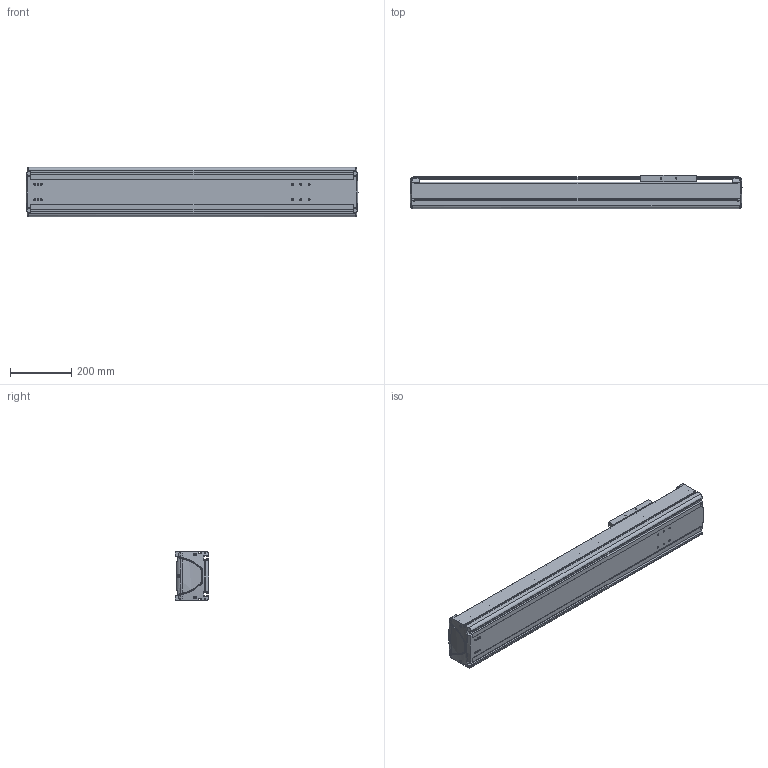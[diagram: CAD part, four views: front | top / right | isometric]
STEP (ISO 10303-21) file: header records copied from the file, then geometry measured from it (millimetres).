
FILE_DESCRIPTION((''),'2;1');
FILE_NAME('BE50G-ST-M_N-70_IGS_PRT','2017-06-18T',(' '),(''),'PRO/ENGINEER BY PARAMETRIC TECHNOLOGY CORPORATION, 2015030','PRO/ENGINEER BY PARAMETRIC TECHNOLOGY CORPORATION, 2015030','');
FILE_SCHEMA(('CONFIG_CONTROL_DESIGN'));
Length unit declared in the file: millimetre
Products named in the file (1): BE50G-ST-M_N-70_IGS_PRT
Bounding box: 1079.98 x 110 x 160 mm (x, y, z)
Volume: 4936583.3 mm3; surface area: 1668213.6 mm2
Topology: 2 solids, 77 shells, 1574 faces, 4154 edges, 2657 vertices
Faces by surface type: cylinder 668, plane 615, bspline 102, torus 87, cone 62, sphere 40
Entity records: 54088 total; most frequent: CARTESIAN_POINT 15583, ORIENTED_EDGE 7944, DIRECTION 7884, EDGE_CURVE 4122, AXIS2_PLACEMENT_3D 2926, VERTEX_POINT 2647, VECTOR 2032, LINE 2032
